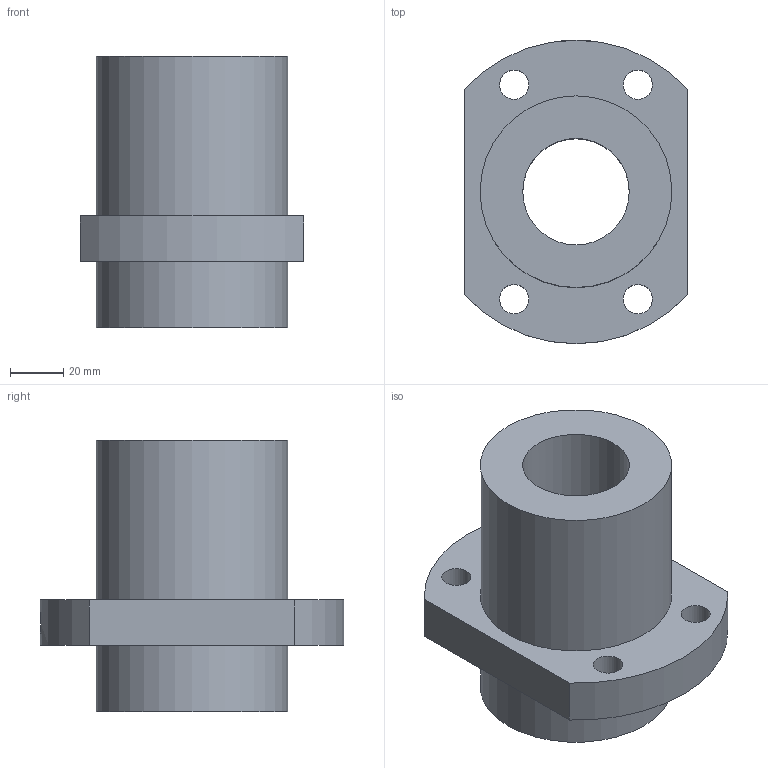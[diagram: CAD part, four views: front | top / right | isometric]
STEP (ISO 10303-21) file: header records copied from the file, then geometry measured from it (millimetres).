
FILE_DESCRIPTION(/* description */ (''),/* implementation_level */ '2;1');
FILE_NAME(/* name */ '40-40S2',/* time_stamp */ '2007-05-17T17:52:00+08:00',/* author */ (''),/* organization */ (''),/* preprocessor_version */ 'ST-DEVELOPER v9',/* originating_system */ 'UGS - NX 4.0',/* authorisation */ '');
FILE_SCHEMA (('CONFIG_CONTROL_DESIGN'));
Length unit declared in the file: millimetre
Products named in the file (1): 40-40S2
Bounding box: 84 x 114 x 102 mm (x, y, z)
Volume: 355777.3 mm3; surface area: 55097.8 mm2
Topology: 1 solids, 1 shells, 18 faces, 40 edges, 27 vertices
Faces by surface type: cylinder 11, plane 7
Full cylindrical faces by diameter (mm): 8 x1, 10 x1, 11 x4, 40 x1, 72 x2
Entity records: 638 total; most frequent: CARTESIAN_POINT 149, DIRECTION 86, ORIENTED_EDGE 60, EDGE_LOOP 42, AXIS2_PLACEMENT_3D 39, FACE_BOUND 33, EDGE_CURVE 30, VERTEX_POINT 26
